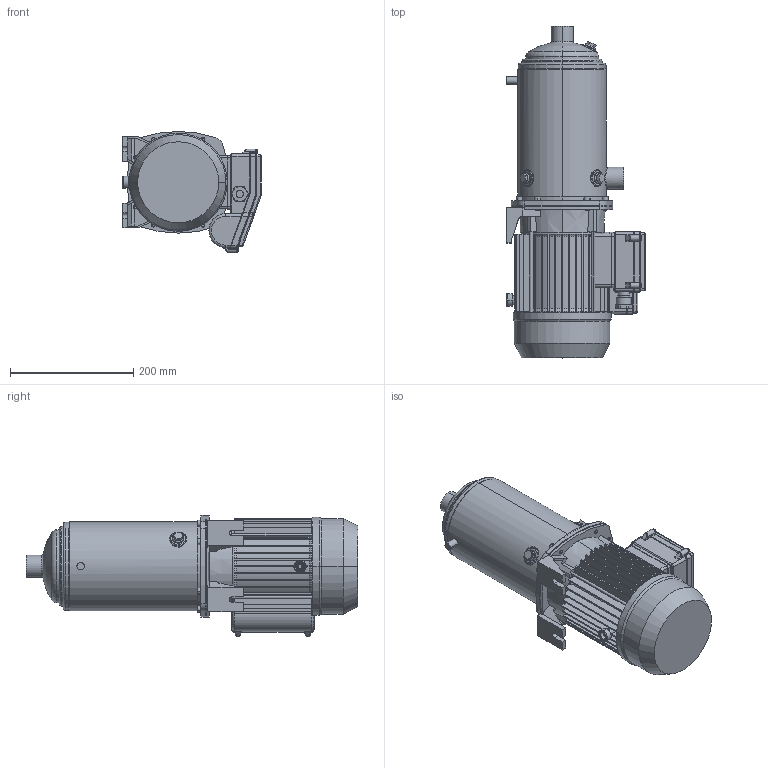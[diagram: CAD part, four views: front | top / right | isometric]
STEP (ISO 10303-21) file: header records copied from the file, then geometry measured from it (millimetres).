
FILE_DESCRIPTION((''),'2;1');
FILE_NAME('MATRIX_3-9T_1_5_M_ASM','2017-04-07T',('rosa'),('"Ebara Pumps Europe +39.444.706811"'),'PRO/ENGINEER BY PARAMETRIC TECHNOLOGY CORPORATION, 2012130','PRO/ENGINEER BY PARAMETRIC TECHNOLOGY CORPORATION, 2012130','');
FILE_SCHEMA(('AUTOMOTIVE_DESIGN { 1 0 10303 214 1 1 1 1 }'));
Length unit declared in the file: millimetre
Products named in the file (6): CORPO_POMPA_MATRIX_3-9; SUPPORTO_MATRIX_MEC_80; MEC_80_MONOFASE; 72229; COPRIMORSETTIERA_MEC80_90_M; MATRIX_3-9T_1_5_M_ASM
Assembly tree (5 placements, depth 2):
  MATRIX_3-9T_1_5_M_ASM
    CORPO_POMPA_MATRIX_3-9
    SUPPORTO_MATRIX_MEC_80
    MEC_80_MONOFASE
    72229
    COPRIMORSETTIERA_MEC80_90_M
Bounding box: 225 x 538.8 x 196.5 mm (x, y, z)
Volume: 7541394.3 mm3; surface area: 633829.3 mm2
Topology: 5 solids, 5 shells, 963 faces, 2300 edges, 1395 vertices
Faces by surface type: plane 428, cylinder 305, cone 108, torus 62, bspline 56, sphere 4
Entity records: 39129 total; most frequent: CARTESIAN_POINT 9262, DIRECTION 4724, ORIENTED_EDGE 4600, EDGE_CURVE 2300, PRESENTATION_STYLE_ASSIGNMENT 2254, STYLED_ITEM 2254, CURVE_STYLE 2250, AXIS2_PLACEMENT_3D 1820
